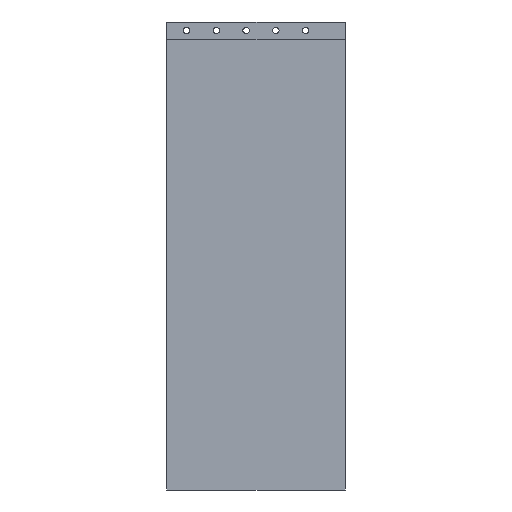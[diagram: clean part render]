
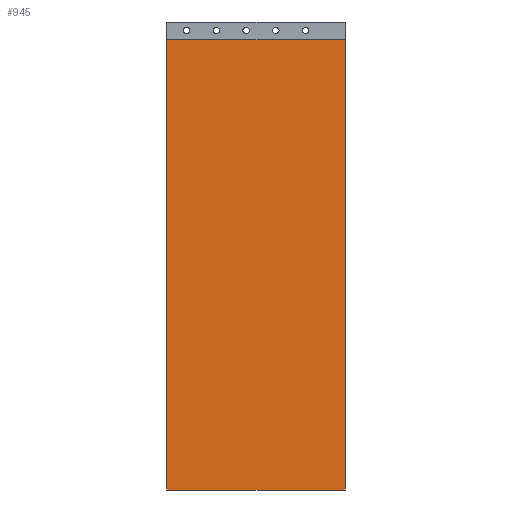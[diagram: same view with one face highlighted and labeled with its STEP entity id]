
A CAD part, front view. The second image highlights one B-rep face of the part: STEP entity #945.
In plain terms, the highlighted planar face has unit normal (0, -1, 0).
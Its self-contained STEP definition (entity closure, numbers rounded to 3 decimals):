
#21=LINE('',#1626,#46);
#29=LINE('',#1644,#54);
#37=LINE('',#1659,#62);
#39=LINE('',#1662,#64);
#46=VECTOR('',#1370,317.5);
#54=VECTOR('',#1386,126.);
#62=VECTOR('',#1400,317.5);
#64=VECTOR('',#1404,126.);
#77=PLANE('',#1091);
#259=FACE_OUTER_BOUND('',#396,.T.);
#396=EDGE_LOOP('',(#828,#829,#830,#831));
#553=VERTEX_POINT('',#1623);
#554=VERTEX_POINT('',#1625);
#560=VERTEX_POINT('',#1643);
#564=VERTEX_POINT('',#1658);
#640=EDGE_CURVE('',#554,#553,#21,.T.);
#649=EDGE_CURVE('',#560,#554,#29,.T.);
#657=EDGE_CURVE('',#564,#560,#37,.T.);
#659=EDGE_CURVE('',#553,#564,#39,.T.);
#828=ORIENTED_EDGE('',*,*,#649,.T.);
#829=ORIENTED_EDGE('',*,*,#640,.T.);
#830=ORIENTED_EDGE('',*,*,#659,.T.);
#831=ORIENTED_EDGE('',*,*,#657,.T.);
#945=ADVANCED_FACE('',(#259),#77,.T.);
#1091=AXIS2_PLACEMENT_3D('',#1661,#1402,#1403);
#1370=DIRECTION('',(0.,0.,-1.));
#1386=DIRECTION('',(-1.,0.,0.));
#1400=DIRECTION('',(0.,0.,1.));
#1402=DIRECTION('center_axis',(0.,-1.,0.));
#1403=DIRECTION('ref_axis',(0.,0.,-1.));
#1404=DIRECTION('',(1.,0.,0.));
#1623=CARTESIAN_POINT('',(-63.,-7.,-165.));
#1625=CARTESIAN_POINT('',(-63.,-7.,152.5));
#1626=CARTESIAN_POINT('',(-63.,-7.,-165.));
#1643=CARTESIAN_POINT('',(63.,-7.,152.5));
#1644=CARTESIAN_POINT('',(18.655,-7.,152.5));
#1658=CARTESIAN_POINT('',(63.,-7.,-165.));
#1659=CARTESIAN_POINT('',(63.,-7.,165.));
#1661=CARTESIAN_POINT('Origin',(-25.691,-7.,-25.691));
#1662=CARTESIAN_POINT('',(63.,-7.,-165.));
